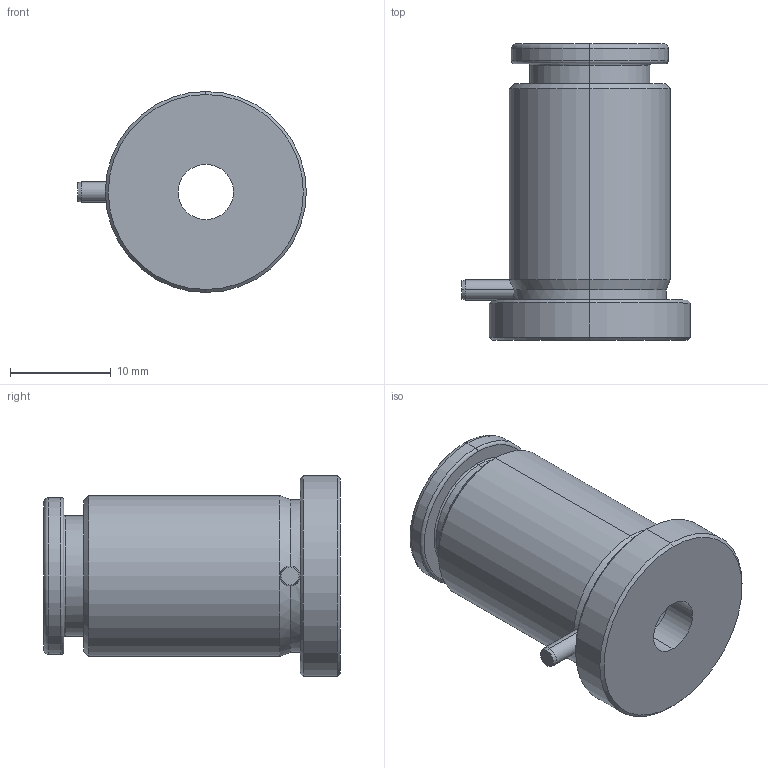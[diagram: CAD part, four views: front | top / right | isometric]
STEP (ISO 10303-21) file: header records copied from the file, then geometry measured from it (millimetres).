
FILE_DESCRIPTION (( 'STEP AP214' ), '1' );
FILE_NAME ('BA081620.STEP', '2013-06-20T10:57:43', ( '' ), ( '' ), 'SwSTEP 2.0', 'SolidWorks 2011', '' );
FILE_SCHEMA (( 'AUTOMOTIVE_DESIGN' ));
Length unit declared in the file: millimetre
Products named in the file (6): Parallel Pin Unhardened_DIN_Parallel Pin ISO 2338 - 2 h6 x 10 - St; 1Casq_pulsador-8L_Pulsador_08; 1bola238; 1muelle08-comp BA; BA081620; 9BA081620_9BA.081620
Assembly tree (12 placements, depth 2):
  BA081620
    1bola238  x8
    1Casq_pulsador-8L_Pulsador_08
    9BA081620_9BA.081620
    Parallel Pin Unhardened_DIN_Parallel Pin ISO 2338 - 2 h6 x 10 - St
    1muelle08-comp BA
Bounding box: 22.75 x 29.5 x 20 mm (x, y, z)
Volume: 4341.5 mm3; surface area: 4861.9 mm2
Topology: 12 solids, 12 shells, 178 faces, 472 edges, 292 vertices
Faces by surface type: cylinder 69, cone 55, torus 20, sphere 16, plane 16, bspline 2
Entity records: 6810 total; most frequent: CARTESIAN_POINT 2653, ORIENTED_EDGE 836, DIRECTION 822, EDGE_CURVE 418, AXIS2_PLACEMENT_3D 359, VERTEX_POINT 254, CIRCLE 182, EDGE_LOOP 180
